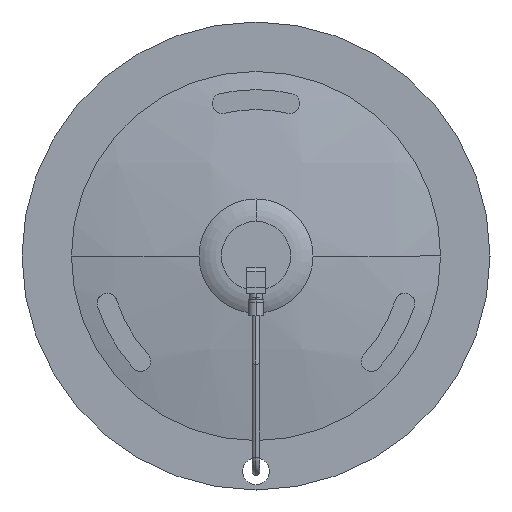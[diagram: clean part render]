
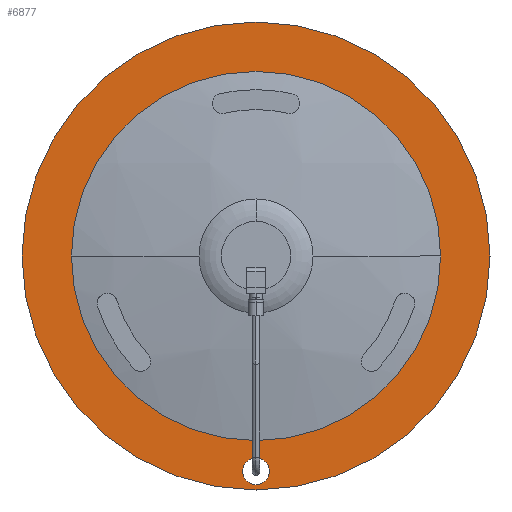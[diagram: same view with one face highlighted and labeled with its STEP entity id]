
A CAD part, front view. The second image highlights one B-rep face of the part: STEP entity #6877.
In plain terms, the highlighted planar face has unit normal (0, -1, 0).
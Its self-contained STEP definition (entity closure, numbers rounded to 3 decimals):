
#88 = DIRECTION ( 'NONE',  ( 0., -1., 0. ) ) ;
#526 = DIRECTION ( 'NONE',  ( 0., 0., -1. ) ) ;
#726 = ORIENTED_EDGE ( 'NONE', *, *, #1312, .F. ) ;
#963 = DIRECTION ( 'NONE',  ( 0., 0., 1. ) ) ;
#1054 = EDGE_CURVE ( 'NONE', #2650, #3597, #3724, .T. ) ;
#1208 = CARTESIAN_POINT ( 'NONE',  ( -138.834, -205.4, 0. ) ) ;
#1231 = DIRECTION ( 'NONE',  ( 0., 0., -1. ) ) ;
#1312 = EDGE_CURVE ( 'NONE', #11043, #6859, #10568, .T. ) ;
#1998 = EDGE_CURVE ( 'NONE', #3923, #2084, #6661, .T. ) ;
#2006 = FACE_BOUND ( 'NONE', #7370, .T. ) ;
#2084 = VERTEX_POINT ( 'NONE', #11901 ) ;
#2132 = CARTESIAN_POINT ( 'NONE',  ( 0., -205.4, -172. ) ) ;
#2399 = AXIS2_PLACEMENT_3D ( 'NONE', #9843, #5890, #963 ) ;
#2409 = DIRECTION ( 'NONE',  ( 0., -1., 0. ) ) ;
#2491 = CARTESIAN_POINT ( 'NONE',  ( 0., -205.4, -176. ) ) ;
#2650 = VERTEX_POINT ( 'NONE', #5365 ) ;
#2900 = DIRECTION ( 'NONE',  ( 0., -1., 0. ) ) ;
#3215 = PLANE ( 'NONE',  #6160 ) ;
#3405 = DIRECTION ( 'NONE',  ( 0., -1., 0. ) ) ;
#3597 = VERTEX_POINT ( 'NONE', #1208 ) ;
#3724 = CIRCLE ( 'NONE', #6489, 138.834 ) ;
#3855 = EDGE_LOOP ( 'NONE', ( #4831, #11983 ) ) ;
#3923 = VERTEX_POINT ( 'NONE', #2491 ) ;
#3949 = CARTESIAN_POINT ( 'NONE',  ( 0., -205.4, 0. ) ) ;
#4090 = CIRCLE ( 'NONE', #11980, 10. ) ;
#4274 = FACE_OUTER_BOUND ( 'NONE', #3855, .T. ) ;
#4831 = ORIENTED_EDGE ( 'NONE', *, *, #5208, .F. ) ;
#5208 = EDGE_CURVE ( 'NONE', #2084, #3923, #12432, .T. ) ;
#5358 = CIRCLE ( 'NONE', #7072, 138.834 ) ;
#5365 = CARTESIAN_POINT ( 'NONE',  ( 138.834, -205.4, 0. ) ) ;
#5610 = EDGE_CURVE ( 'NONE', #6859, #11043, #4090, .T. ) ;
#5890 = DIRECTION ( 'NONE',  ( 0., 1., 0. ) ) ;
#5912 = EDGE_CURVE ( 'NONE', #3597, #2650, #5358, .T. ) ;
#5955 = CARTESIAN_POINT ( 'NONE',  ( 0., -205.4, -162. ) ) ;
#6027 = AXIS2_PLACEMENT_3D ( 'NONE', #3949, #9889, #8014 ) ;
#6160 = AXIS2_PLACEMENT_3D ( 'NONE', #10147, #88, #11276 ) ;
#6387 = CARTESIAN_POINT ( 'NONE',  ( 0., -205.4, 0. ) ) ;
#6489 = AXIS2_PLACEMENT_3D ( 'NONE', #12590, #10374, #1231 ) ;
#6661 = CIRCLE ( 'NONE', #6027, 176. ) ;
#6859 = VERTEX_POINT ( 'NONE', #2132 ) ;
#6877 = ADVANCED_FACE ( 'NONE', ( #2006, #11213, #4274 ), #3215, .T. ) ;
#7072 = AXIS2_PLACEMENT_3D ( 'NONE', #6387, #3405, #526 ) ;
#7370 = EDGE_LOOP ( 'NONE', ( #726, #13052 ) ) ;
#7490 = CARTESIAN_POINT ( 'NONE',  ( 0., -205.4, -162. ) ) ;
#7646 = EDGE_LOOP ( 'NONE', ( #8490, #12386 ) ) ;
#8014 = DIRECTION ( 'NONE',  ( 0., 0., 1. ) ) ;
#8490 = ORIENTED_EDGE ( 'NONE', *, *, #5912, .F. ) ;
#9038 = DIRECTION ( 'NONE',  ( 0., 0., -1. ) ) ;
#9843 = CARTESIAN_POINT ( 'NONE',  ( 0., -205.4, 0. ) ) ;
#9889 = DIRECTION ( 'NONE',  ( 0., 1., 0. ) ) ;
#10147 = CARTESIAN_POINT ( 'NONE',  ( -176., -205.4, 0. ) ) ;
#10374 = DIRECTION ( 'NONE',  ( 0., -1., 0. ) ) ;
#10568 = CIRCLE ( 'NONE', #12285, 10. ) ;
#11043 = VERTEX_POINT ( 'NONE', #11320 ) ;
#11213 = FACE_BOUND ( 'NONE', #7646, .T. ) ;
#11276 = DIRECTION ( 'NONE',  ( 0., 0., -1. ) ) ;
#11320 = CARTESIAN_POINT ( 'NONE',  ( 0., -205.4, -152. ) ) ;
#11901 = CARTESIAN_POINT ( 'NONE',  ( 0., -205.4, 176. ) ) ;
#11980 = AXIS2_PLACEMENT_3D ( 'NONE', #7490, #2409, #12640 ) ;
#11983 = ORIENTED_EDGE ( 'NONE', *, *, #1998, .F. ) ;
#12285 = AXIS2_PLACEMENT_3D ( 'NONE', #5955, #2900, #9038 ) ;
#12386 = ORIENTED_EDGE ( 'NONE', *, *, #1054, .F. ) ;
#12432 = CIRCLE ( 'NONE', #2399, 176. ) ;
#12590 = CARTESIAN_POINT ( 'NONE',  ( 0., -205.4, 0. ) ) ;
#12640 = DIRECTION ( 'NONE',  ( 0., 0., -1. ) ) ;
#13052 = ORIENTED_EDGE ( 'NONE', *, *, #5610, .F. ) ;
